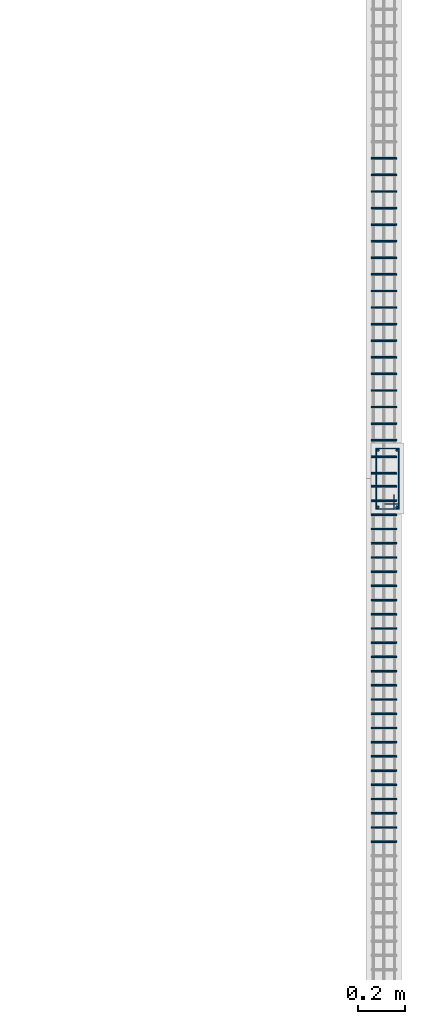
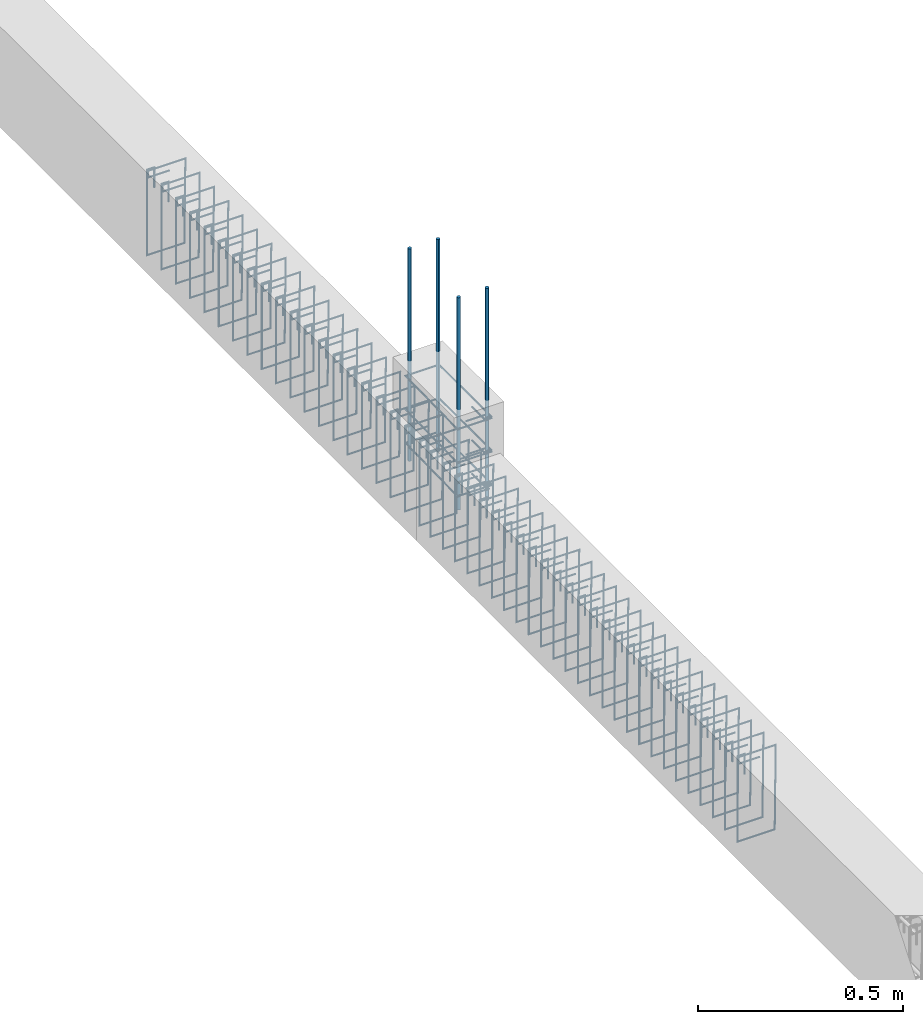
# One storey, part 103 of 150: 53 reinforcing bars.
"""IFC4 building model written with IfcOpenShell, lengths in centimetres."""

from ifc_helpers import new_model, entity, si_unit, derived_unit, frame, origin_with_axes, place, context, project, spatial, source, transform, mapped, element, save


model = new_model("IFC4")

# Units and contexts
model_context = context("Model", 3, precision=1e-05, world=origin_with_axes(), identifier="Body")
ifc_project = project(units=[si_unit("LENGTHUNIT", "METRE", prefix="CENTI"), si_unit("VOLUMEUNIT", "CUBIC_METRE"), si_unit("AREAUNIT", "SQUARE_METRE"), si_unit("POWERUNIT", "WATT"), si_unit("LUMINOUSFLUXUNIT", "LUMEN"), si_unit("ELECTRICCURRENTUNIT", "AMPERE"), si_unit("PRESSUREUNIT", "PASCAL", prefix="KILO"), si_unit("MASSUNIT", "GRAM", prefix="KILO"), si_unit("PLANEANGLEUNIT", "RADIAN"), derived_unit("VOLUMETRICFLOWRATEUNIT", [(si_unit("LENGTHUNIT", "METRE"), 3), (si_unit("TIMEUNIT", "SECOND"), -1)])], contexts=[model_context])

# Site, building, storey
site_placement = place(None, frame((-4000.0, 0.0, 0.0), z_axis=(0.0, 0.0, 1.0), x_axis=(1.0, 0.0, 0.0)))
site = spatial("IfcSite", under=ifc_project, at=site_placement, Name="PADRÃO")
building_placement = place(site_placement, frame((0.0, 0.0, -14.0)))
building = spatial("IfcBuilding", under=site, at=building_placement, Name="CRECHE PRÉ-ESCOLA TIPO 2")
placement = place(building_placement, origin_with_axes())
storey_placement = place(placement, frame((0.0, 0.0, 30.0), z_axis=(0.0, 0.0, 1.0), x_axis=(1.0, 0.0, 0.0)))
storey = spatial("IfcBuildingStorey", under=building, at=storey_placement, Name="VIGA BALDRAME", CompositionType="ELEMENT", Elevation=16.0)

# Reinforcing bars
shared_shape_1 = source(origin_with_axes(), model_context, "Body", "AdvancedSweptSolid", [
    entity("IfcSweptDiskSolid", entity("IfcCompositeCurve", [entity("IfcCompositeCurveSegment", "CONTINUOUS", True, entity("IfcPolyline", [entity("IfcCartesianPoint", [4.25, 21.75, 0.0]), entity("IfcCartesianPoint", [4.25, 27.75, 0.0])])), entity("IfcCompositeCurveSegment", "CONTINUOUS", True, entity("IfcPolyline", [entity("IfcCartesianPoint", [4.25, 27.75, 0.0]), entity("IfcCartesianPoint", [2.25, 27.75, 0.0])])), entity("IfcCompositeCurveSegment", "CONTINUOUS", True, entity("IfcPolyline", [entity("IfcCartesianPoint", [2.25, 27.75, 0.0]), entity("IfcCartesianPoint", [2.25, 2.25, 0.0])])), entity("IfcCompositeCurveSegment", "CONTINUOUS", True, entity("IfcPolyline", [entity("IfcCartesianPoint", [2.25, 2.25, 0.0]), entity("IfcCartesianPoint", [11.75, 2.25, 0.0])])), entity("IfcCompositeCurveSegment", "CONTINUOUS", True, entity("IfcPolyline", [entity("IfcCartesianPoint", [11.75, 2.25, 0.0]), entity("IfcCartesianPoint", [11.75, 27.75, -0.5])])), entity("IfcCompositeCurveSegment", "CONTINUOUS", True, entity("IfcPolyline", [entity("IfcCartesianPoint", [11.75, 27.75, -0.5]), entity("IfcCartesianPoint", [2.25, 27.75, -0.5])])), entity("IfcCompositeCurveSegment", "CONTINUOUS", True, entity("IfcPolyline", [entity("IfcCartesianPoint", [2.25, 27.75, -0.5]), entity("IfcCartesianPoint", [2.25, 25.75, -0.5])])), entity("IfcCompositeCurveSegment", "CONTINUOUS", True, entity("IfcPolyline", [entity("IfcCartesianPoint", [2.25, 25.75, -0.5]), entity("IfcCartesianPoint", [8.25, 25.75, -0.5])]))], False), 0.25),
])
for number, where, z_axis, x_axis, name in (
    (1, (4000.0, 1779.11, -15.0), (0.0, 0.0, 1.0), (-1.0, 0.0, 0.0), "P100 - Estribo"),
    (2, (4000.0, 1779.11, -5.0), (0.0, 0.0, 1.0), (-1.0, 0.0, 0.0), "P100 - Estribo"),
    (3, (4000.0, 1779.11, -25.0), (0.0, 0.0, 1.0), (-1.0, 0.0, 0.0), "P100 - Estribo"),
):
    element("IfcReinforcingBar", number, at=place(storey_placement, frame(where, z_axis=z_axis, x_axis=x_axis)), inside=storey, Name=name, BarLength=0.0, CrossSectionArea=1.9634954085e-05, NominalDiameter=0.5, PredefinedType="MAIN", context=model_context, shape_type="MappedRepresentation", body=[
        mapped(shared_shape_1, transform((0.0, 0.0, 0.0), scale=1.0)),
    ])
shared_shape_2 = source(origin_with_axes(), model_context, "Body", "AdvancedSweptSolid", [
    entity("IfcSweptDiskSolid", entity("IfcCompositeCurve", [entity("IfcCompositeCurveSegment", "CONTINUOUS", True, entity("IfcPolyline", [entity("IfcCartesianPoint", [2.0, -6.0, 0.0]), entity("IfcCartesianPoint", [2.0, 0.0, 0.0])])), entity("IfcCompositeCurveSegment", "CONTINUOUS", True, entity("IfcPolyline", [entity("IfcCartesianPoint", [2.0, 0.0, 0.0]), entity("IfcCartesianPoint", [0.0, 0.0, 0.0])])), entity("IfcCompositeCurveSegment", "CONTINUOUS", True, entity("IfcPolyline", [entity("IfcCartesianPoint", [0.0, 0.0, 0.0]), entity("IfcCartesianPoint", [0.0, -25.5, 0.0])])), entity("IfcCompositeCurveSegment", "CONTINUOUS", True, entity("IfcPolyline", [entity("IfcCartesianPoint", [0.0, -25.5, 0.0]), entity("IfcCartesianPoint", [10.5, -25.5, 0.0])])), entity("IfcCompositeCurveSegment", "CONTINUOUS", True, entity("IfcPolyline", [entity("IfcCartesianPoint", [10.5, -25.5, 0.0]), entity("IfcCartesianPoint", [10.5, 0.0, 0.5])])), entity("IfcCompositeCurveSegment", "CONTINUOUS", True, entity("IfcPolyline", [entity("IfcCartesianPoint", [10.5, 0.0, 0.5]), entity("IfcCartesianPoint", [0.0, 0.0, 0.5])])), entity("IfcCompositeCurveSegment", "CONTINUOUS", True, entity("IfcPolyline", [entity("IfcCartesianPoint", [0.0, 0.0, 0.5]), entity("IfcCartesianPoint", [0.0, -2.0, 0.5])])), entity("IfcCompositeCurveSegment", "CONTINUOUS", True, entity("IfcPolyline", [entity("IfcCartesianPoint", [0.0, -2.0, 0.5]), entity("IfcCartesianPoint", [6.0, -2.0, 0.5])]))], False), 0.25),
])
for number, where, z_axis, x_axis, name in (
    (4, (3986.25, 1611.11, -17.25), (0.0, -1.0, 0.0), (1.0, 0.0, 0.0), "V230 - Estribo"),
    (5, (3986.25, 1623.11, -17.25), (0.0, -1.0, 0.0), (1.0, 0.0, 0.0), "V230 - Estribo"),
    (6, (3986.25, 1629.11, -17.25), (0.0, -1.0, 0.0), (1.0, 0.0, 0.0), "V230 - Estribo"),
    (7, (3986.25, 1617.11, -17.25), (0.0, -1.0, 0.0), (1.0, 0.0, 0.0), "V230 - Estribo"),
    (8, (3986.25, 1761.11, -17.25), (0.0, -1.0, 0.0), (1.0, 0.0, 0.0), "V230 - Estribo"),
    (9, (3986.25, 1755.11, -17.25), (0.0, -1.0, 0.0), (1.0, 0.0, 0.0), "V230 - Estribo"),
    (10, (3986.25, 1749.11, -17.25), (0.0, -1.0, 0.0), (1.0, 0.0, 0.0), "V230 - Estribo"),
    (11, (3986.25, 1743.11, -17.25), (0.0, -1.0, 0.0), (1.0, 0.0, 0.0), "V230 - Estribo"),
    (12, (3986.25, 1737.11, -17.25), (0.0, -1.0, 0.0), (1.0, 0.0, 0.0), "V230 - Estribo"),
    (13, (3986.25, 1731.11, -17.25), (0.0, -1.0, 0.0), (1.0, 0.0, 0.0), "V230 - Estribo"),
    (14, (3986.25, 1725.11, -17.25), (0.0, -1.0, 0.0), (1.0, 0.0, 0.0), "V230 - Estribo"),
    (15, (3986.25, 1719.11, -17.25), (0.0, -1.0, 0.0), (1.0, 0.0, 0.0), "V230 - Estribo"),
    (16, (3986.25, 1713.11, -17.25), (0.0, -1.0, 0.0), (1.0, 0.0, 0.0), "V230 - Estribo"),
    (17, (3986.25, 1707.11, -17.25), (0.0, -1.0, 0.0), (1.0, 0.0, 0.0), "V230 - Estribo"),
    (18, (3986.25, 1701.11, -17.25), (0.0, -1.0, 0.0), (1.0, 0.0, 0.0), "V230 - Estribo"),
    (19, (3986.25, 1695.11, -17.25), (0.0, -1.0, 0.0), (1.0, 0.0, 0.0), "V230 - Estribo"),
    (20, (3986.25, 1689.11, -17.25), (0.0, -1.0, 0.0), (1.0, 0.0, 0.0), "V230 - Estribo"),
    (21, (3986.25, 1683.11, -17.25), (0.0, -1.0, 0.0), (1.0, 0.0, 0.0), "V230 - Estribo"),
    (22, (3986.25, 1677.11, -17.25), (0.0, -1.0, 0.0), (1.0, 0.0, 0.0), "V230 - Estribo"),
    (23, (3986.25, 1671.11, -17.25), (0.0, -1.0, 0.0), (1.0, 0.0, 0.0), "V230 - Estribo"),
    (24, (3986.25, 1665.11, -17.25), (0.0, -1.0, 0.0), (1.0, 0.0, 0.0), "V230 - Estribo"),
    (25, (3986.25, 1659.11, -17.25), (0.0, -1.0, 0.0), (1.0, 0.0, 0.0), "V230 - Estribo"),
    (26, (3986.25, 1653.11, -17.25), (0.0, -1.0, 0.0), (1.0, 0.0, 0.0), "V230 - Estribo"),
    (27, (3986.25, 1647.11, -17.25), (0.0, -1.0, 0.0), (1.0, 0.0, 0.0), "V230 - Estribo"),
    (28, (3986.25, 1641.11, -17.25), (0.0, -1.0, 0.0), (1.0, 0.0, 0.0), "V230 - Estribo"),
    (29, (3986.25, 1635.11, -17.25), (0.0, -1.0, 0.0), (1.0, 0.0, 0.0), "V230 - Estribo"),
):
    element("IfcReinforcingBar", number, at=place(storey_placement, frame(where, z_axis=z_axis, x_axis=x_axis)), inside=storey, Name=name, BarLength=0.0, CrossSectionArea=1.9634954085e-05, NominalDiameter=0.5, PredefinedType="MAIN", context=model_context, shape_type="MappedRepresentation", body=[
        mapped(shared_shape_2, transform((0.0, 0.0, 0.0), scale=1.0)),
    ])
shared_shape_3 = source(origin_with_axes(), model_context, "Body", "AdvancedSweptSolid", [
    entity("IfcSweptDiskSolid", entity("IfcCompositeCurve", [entity("IfcCompositeCurveSegment", "CONTINUOUS", True, entity("IfcPolyline", [entity("IfcCartesianPoint", [2.0, -6.0, 0.0]), entity("IfcCartesianPoint", [2.0, 0.0, 0.0])])), entity("IfcCompositeCurveSegment", "CONTINUOUS", True, entity("IfcPolyline", [entity("IfcCartesianPoint", [2.0, 0.0, 0.0]), entity("IfcCartesianPoint", [0.0, 0.0, 0.0])])), entity("IfcCompositeCurveSegment", "CONTINUOUS", True, entity("IfcPolyline", [entity("IfcCartesianPoint", [0.0, 0.0, 0.0]), entity("IfcCartesianPoint", [0.0, -25.5, 0.0])])), entity("IfcCompositeCurveSegment", "CONTINUOUS", True, entity("IfcPolyline", [entity("IfcCartesianPoint", [0.0, -25.5, 0.0]), entity("IfcCartesianPoint", [10.5, -25.5, 0.0])])), entity("IfcCompositeCurveSegment", "CONTINUOUS", True, entity("IfcPolyline", [entity("IfcCartesianPoint", [10.5, -25.5, 0.0]), entity("IfcCartesianPoint", [10.5, 0.0, 0.5])])), entity("IfcCompositeCurveSegment", "CONTINUOUS", True, entity("IfcPolyline", [entity("IfcCartesianPoint", [10.5, 0.0, 0.5]), entity("IfcCartesianPoint", [0.0, 0.0, 0.5])])), entity("IfcCompositeCurveSegment", "CONTINUOUS", True, entity("IfcPolyline", [entity("IfcCartesianPoint", [0.0, 0.0, 0.5]), entity("IfcCartesianPoint", [0.0, -2.0, 0.5])])), entity("IfcCompositeCurveSegment", "CONTINUOUS", True, entity("IfcPolyline", [entity("IfcCartesianPoint", [0.0, -2.0, 0.5]), entity("IfcCartesianPoint", [6.0, -2.0, 0.5])]))], False), 0.25),
])
for number, where, z_axis, x_axis, name in (
    (30, (3986.25, 1899.61, -17.25), (0.0, -1.0, 0.0), (1.0, 0.0, 0.0), "V230 - Estribo"),
    (31, (3986.25, 1892.61, -17.25), (0.0, -1.0, 0.0), (1.0, 0.0, 0.0), "V230 - Estribo"),
    (32, (3986.25, 1885.61, -17.25), (0.0, -1.0, 0.0), (1.0, 0.0, 0.0), "V230 - Estribo"),
    (33, (3986.25, 1878.61, -17.25), (0.0, -1.0, 0.0), (1.0, 0.0, 0.0), "V230 - Estribo"),
    (34, (3986.25, 1871.61, -17.25), (0.0, -1.0, 0.0), (1.0, 0.0, 0.0), "V230 - Estribo"),
    (35, (3986.25, 1864.61, -17.25), (0.0, -1.0, 0.0), (1.0, 0.0, 0.0), "V230 - Estribo"),
    (36, (3986.25, 1857.61, -17.25), (0.0, -1.0, 0.0), (1.0, 0.0, 0.0), "V230 - Estribo"),
    (37, (3986.25, 1850.61, -17.25), (0.0, -1.0, 0.0), (1.0, 0.0, 0.0), "V230 - Estribo"),
    (38, (3986.25, 1843.61, -17.25), (0.0, -1.0, 0.0), (1.0, 0.0, 0.0), "V230 - Estribo"),
    (39, (3986.25, 1836.61, -17.25), (0.0, -1.0, 0.0), (1.0, 0.0, 0.0), "V230 - Estribo"),
    (40, (3986.25, 1829.61, -17.25), (0.0, -1.0, 0.0), (1.0, 0.0, 0.0), "V230 - Estribo"),
    (41, (3986.25, 1822.61, -17.25), (0.0, -1.0, 0.0), (1.0, 0.0, 0.0), "V230 - Estribo"),
    (42, (3986.25, 1815.61, -17.25), (0.0, -1.0, 0.0), (1.0, 0.0, 0.0), "V230 - Estribo"),
    (43, (3986.25, 1808.61, -17.25), (0.0, -1.0, 0.0), (1.0, 0.0, 0.0), "V230 - Estribo"),
    (44, (3986.25, 1801.61, -17.25), (0.0, -1.0, 0.0), (1.0, 0.0, 0.0), "V230 - Estribo"),
    (45, (3986.25, 1794.61, -17.25), (0.0, -1.0, 0.0), (1.0, 0.0, 0.0), "V230 - Estribo"),
    (46, (3986.25, 1787.61, -17.25), (0.0, -1.0, 0.0), (1.0, 0.0, 0.0), "V230 - Estribo"),
    (47, (3986.25, 1780.61, -17.25), (0.0, -1.0, 0.0), (1.0, 0.0, 0.0), "V230 - Estribo"),
    (48, (3986.25, 1773.61, -17.25), (0.0, -1.0, 0.0), (1.0, 0.0, 0.0), "V230 - Estribo"),
    (49, (3986.25, 1766.61, -17.25), (0.0, -1.0, 0.0), (1.0, 0.0, 0.0), "V230 - Estribo"),
):
    element("IfcReinforcingBar", number, at=place(storey_placement, frame(where, z_axis=z_axis, x_axis=x_axis)), inside=storey, Name=name, BarLength=0.0, CrossSectionArea=1.9634954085e-05, NominalDiameter=0.5, PredefinedType="MAIN", context=model_context, shape_type="MappedRepresentation", body=[
        mapped(shared_shape_3, transform((0.0, 0.0, 0.0), scale=1.0)),
    ])
for number, where, z_axis, x_axis, name in (
    (50, (3997.0, 1776.11, 33.3573001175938), (0.0, 0.0, 1.0), (1.0, 0.0, 0.0), "P100 - Longitudinal"),
    (51, (3989.0, 1776.11, 33.3573001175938), (0.0, 0.0, 1.0), (1.0, 0.0, 0.0), "P100 - Longitudinal"),
    (52, (3989.0, 1752.11, 33.3573001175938), (0.0, 0.0, 1.0), (1.0, 0.0, 0.0), "P100 - Longitudinal"),
    (53, (3997.0, 1752.11, 33.3573001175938), (0.0, 0.0, 1.0), (1.0, 0.0, 0.0), "P100 - Longitudinal"),
):
    element("IfcReinforcingBar", number, at=place(storey_placement, frame(where, z_axis=z_axis, x_axis=x_axis)), inside=storey, Name=name, BarLength=0.0, CrossSectionArea=7.853981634e-05, NominalDiameter=1.0, PredefinedType="MAIN", context=model_context, shape_type="AdvancedSweptSolid", body=[
        entity("IfcSweptDiskSolid", entity("IfcCompositeCurve", [entity("IfcCompositeCurveSegment", "CONTINUOUS", True, entity("IfcPolyline", [entity("IfcCartesianPoint", [0.0, 0.0, -63.3573001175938]), entity("IfcCartesianPoint", [0.0, 0.0, 0.0])]))], False), 0.5),
    ])

save(model, "model.ifc")
